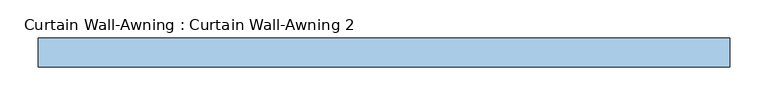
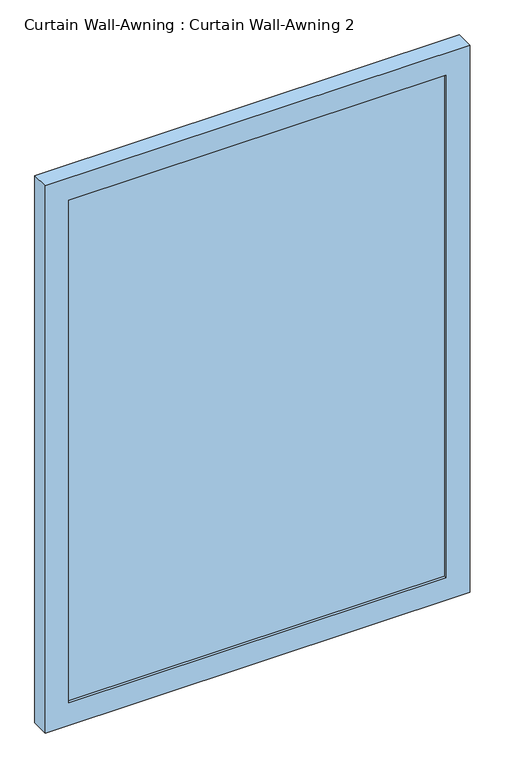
"""IFC4 building model written with IfcOpenShell, lengths in millimetres: window geometry, Curtain Wall-Awning : Curtain Wall-Awning 2."""

from ifc_helpers import new_model, si_unit, frame, origin, place, context, project, spatial, polyline, outline, extrude, source, transform, mapped, element, save


def curtain_wall_awning_curtain_wall_awning_2_ee0f351f(model_context):
    return source(origin(), model_context, "Body", "SweptSolid", [
        extrude(outline(polyline([(403.225, 19.05), (403.225, 6.35), (-403.225, 6.35), (-403.225, 19.05), (403.225, 19.05)])), frame((0.0, 0.0, 50.8), z_axis=(0.0, 0.0, 1.0), x_axis=(1.0, 0.0, 0.0)), (0.0, 0.0, 1.0), 1134.635445),
        extrude(outline(polyline([(1236.235445, -454.025), (0.0, -454.025), (0.0, 454.025), (1236.235445, 454.025), (1236.235445, -454.025)]), holes=[polyline([(1185.435445, -403.225), (1185.435445, 403.225), (50.8, 403.225), (50.8, -403.225), (1185.435445, -403.225)])]), frame((0.0, 0.0, 0.0), z_axis=(0.0, 1.0, 0.0), x_axis=(0.0, 0.0, 1.0)), (0.0, 0.0, 1.0), 38.1),
    ])


if __name__ == "__main__":
    model = new_model("IFC4")
    model_context = context("Model", 3, world=origin())
    ifc_project = project(units=[si_unit("LENGTHUNIT", "METRE", prefix="MILLI")], contexts=[model_context])
    site = spatial("IfcSite", under=ifc_project)
    building = spatial("IfcBuilding", under=site)
    placement = place(None, origin())
    curtain_wall_awning_curtain_wall_awning_2_shape = curtain_wall_awning_curtain_wall_awning_2_ee0f351f(model_context)
    element("IfcWindow", 1, ObjectType="Curtain Wall-Awning : Curtain Wall-Awning 2", at=placement, inside=building, context=model_context, shape_type="MappedRepresentation", body=[
        mapped(curtain_wall_awning_curtain_wall_awning_2_shape, transform((0.0, 0.0, 0.0), x_axis=(1.0, 0.0, 0.0), y_axis=(0.0, 1.0, 0.0), z_axis=(0.0, 0.0, 1.0))),
    ])
    save(model, "model.ifc")
